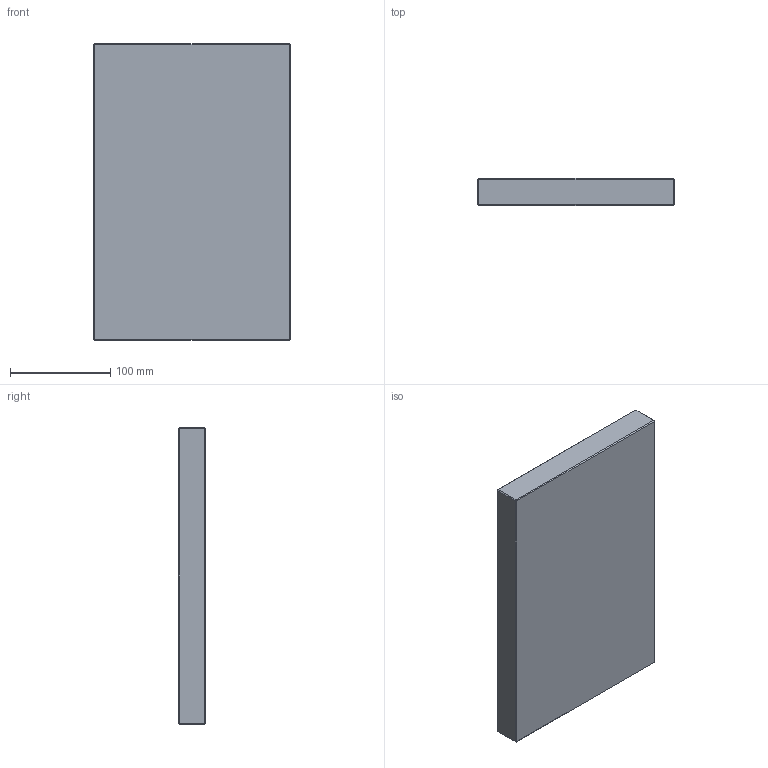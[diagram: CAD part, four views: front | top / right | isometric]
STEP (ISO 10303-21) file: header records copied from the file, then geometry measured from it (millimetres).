
FILE_DESCRIPTION (( 'STEP AP214' ), '1' );
FILE_NAME ('PC-P-196x296x27.STEP', '2020-04-01T07:46:34', ( 'August' ), ( '' ), 'SwSTEP 2.0', 'SolidWorks 2018', '' );
FILE_SCHEMA (( 'AUTOMOTIVE_DESIGN' ));
Length unit declared in the file: millimetre
Products named in the file (1): PC-P-196x296x27
Bounding box: 196 x 27 x 296 mm (x, y, z)
Volume: 1565399.3 mm3; surface area: 141380.9 mm2
Topology: 1 solids, 1 shells, 26 faces, 48 edges, 24 vertices
Faces by surface type: plane 26
Entity records: 634 total; most frequent: DIRECTION 102, CARTESIAN_POINT 99, ORIENTED_EDGE 96, VECTOR 48, LINE 48, EDGE_CURVE 48, AXIS2_PLACEMENT_3D 27, FACE_OUTER_BOUND 26
